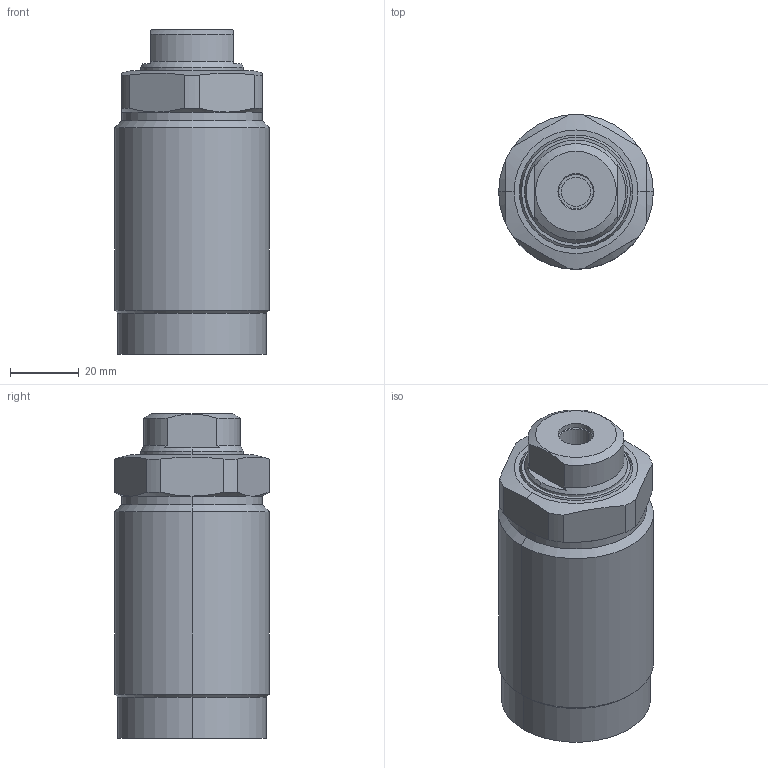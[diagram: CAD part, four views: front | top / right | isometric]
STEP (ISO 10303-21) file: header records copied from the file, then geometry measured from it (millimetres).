
FILE_DESCRIPTION((' '),'2;1');
FILE_NAME( 'TGP45-AL.x_t.stp', '2025-02-10T16:03:55', (' '), ('--- Datakit www.datakit.com---'), ' Datakit CrossCadWare V2024.1 Dec 21 2023', 'Mastercam 2025', ' ');
FILE_SCHEMA(('AUTOMOTIVE_DESIGN { 1 0 10303 214 1 1 1 1 }'));
Length unit declared in the file: millimetre
Products named in the file (1): TGP45-AL
Bounding box: 45 x 45 x 94.5 mm (x, y, z)
Volume: 148787.9 mm3; surface area: 20886.8 mm2
Topology: 2 solids, 2 shells, 78 faces, 182 edges, 115 vertices
Faces by surface type: cylinder 34, plane 22, cone 18, torus 4
Entity records: 2380 total; most frequent: CARTESIAN_POINT 542, DIRECTION 408, ORIENTED_EDGE 360, EDGE_CURVE 180, AXIS2_PLACEMENT_3D 173, VERTEX_POINT 115, CIRCLE 94, EDGE_LOOP 87
